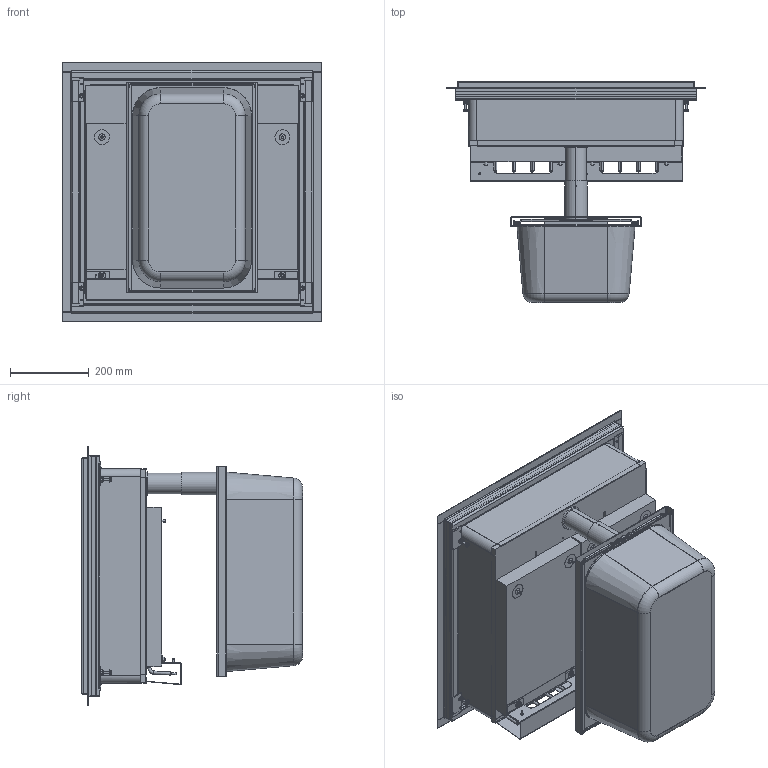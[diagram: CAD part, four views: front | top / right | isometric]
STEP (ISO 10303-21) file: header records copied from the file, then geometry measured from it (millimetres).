
FILE_DESCRIPTION (( 'STEP AP214' ), '1' );
FILE_NAME ('MS-B-60_120739_201301.STEP', '2019-02-08T12:37:13', ( '' ), ( '' ), 'SwSTEP 2.0', 'SolidWorks 2018', '' );
FILE_SCHEMA (( 'AUTOMOTIVE_DESIGN' ));
Length unit declared in the file: millimetre
Products named in the file (1): MS-B-60_120739_201301
Bounding box: 658 x 560 x 658 mm (x, y, z)
Volume: 15505948.5 mm3; surface area: 3717308.1 mm2
Topology: 1 solids, 15 shells, 1827 faces, 4597 edges, 2827 vertices
Faces by surface type: plane 855, cylinder 557, cone 221, torus 186, bspline 8
Entity records: 76712 total; most frequent: CARTESIAN_POINT 12408, DIRECTION 9547, ORIENTED_EDGE 9126, EDGE_CURVE 4563, AXIS2_PLACEMENT_3D 3540, VERTEX_POINT 2827, VECTOR 2467, LINE 2467
